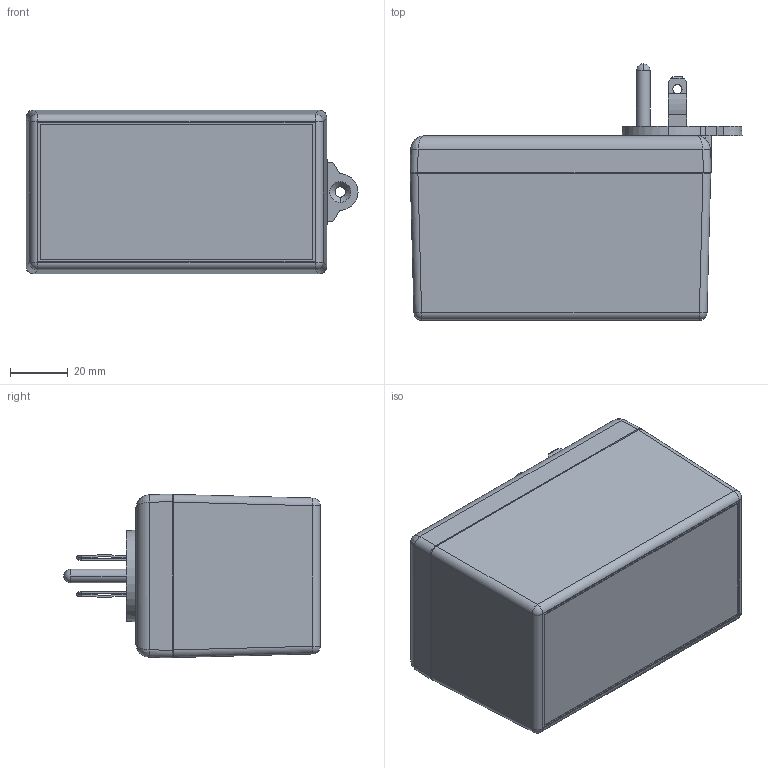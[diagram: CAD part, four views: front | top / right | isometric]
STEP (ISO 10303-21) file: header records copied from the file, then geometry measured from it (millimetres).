
FILE_DESCRIPTION (( 'STEP AP214' ), '1' );
FILE_NAME ('PM2425T03XWT.STEP', '2010-07-15T14:19:53', ( '' ), ( '' ), 'SwSTEP 2.0', 'SolidWorks 2010', '' );
FILE_SCHEMA (( 'AUTOMOTIVE_DESIGN' ));
Length unit declared in the file: inch
Products named in the file (10): TS-2420B AND PM2420_TS-2420BP; B2405 ASS''Y_B24053XWT; MPB2405_MPB24053WT; GND-PIN; BLADES; WELD DISC-PS-BK; GND-TAB; SCREWS-HL1-BR; B2405-PCB; PM2425T03XWT
Assembly tree (13 placements, depth 3):
  PM2425T03XWT
    B2405 ASS''Y_B24053XWT
      GND-PIN
      BLADES  x2
      MPB2405_MPB24053WT
      GND-TAB
      WELD DISC-PS-BK
    SCREWS-HL1-BR  x4
    TS-2420B AND PM2420_TS-2420BP
    B2405-PCB
Bounding box: 115.34 x 89.03 x 56.95 mm (x, y, z)
Volume: 90087.7 mm3; surface area: 83385.4 mm2
Topology: 12 solids, 12 shells, 952 faces, 2643 edges, 1721 vertices
Faces by surface type: cylinder 520, plane 296, cone 82, bspline 28, sphere 14, torus 12
Entity records: 20602 total; most frequent: CARTESIAN_POINT 6542, ORIENTED_EDGE 2996, DIRECTION 2748, EDGE_CURVE 1498, AXIS2_PLACEMENT_3D 988, VERTEX_POINT 971, LINE 772, VECTOR 772
